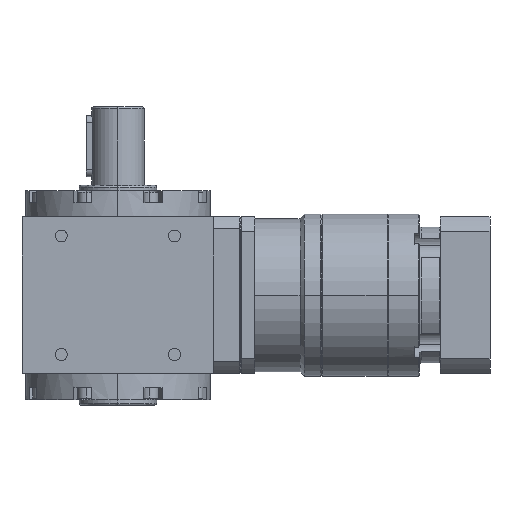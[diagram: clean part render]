
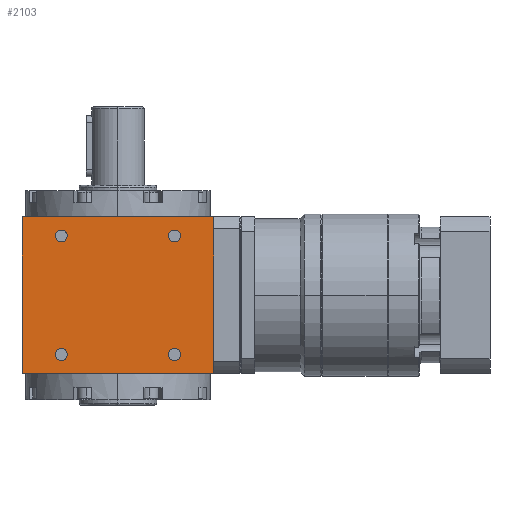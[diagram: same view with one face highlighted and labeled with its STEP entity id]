
A CAD part, left-side view. The second image highlights one B-rep face of the part: STEP entity #2103.
In plain terms, the highlighted planar face has unit normal (-1, 0, 0).
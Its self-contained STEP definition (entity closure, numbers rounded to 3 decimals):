
#221 = CARTESIAN_POINT ( 'NONE',  ( -55., -35.9, -34. ) ) ;
#629 = DIRECTION ( 'NONE',  ( 0., -1., 0. ) ) ;
#631 = DIRECTION ( 'NONE',  ( 0., 1., 0. ) ) ;
#890 = CARTESIAN_POINT ( 'NONE',  ( -55., -32.5, -34. ) ) ;
#1011 = AXIS2_PLACEMENT_3D ( 'NONE', #12453, #1200, #6738 ) ;
#1200 = DIRECTION ( 'NONE',  ( 1., 0., 0. ) ) ;
#1488 = VECTOR ( 'NONE', #12057, 1000. ) ;
#1581 = CARTESIAN_POINT ( 'NONE',  ( -55., -32.5, -34. ) ) ;
#1710 = CIRCLE ( 'NONE', #8312, 3.4 ) ;
#1756 = FACE_BOUND ( 'NONE', #2371, .T. ) ;
#1758 = ORIENTED_EDGE ( 'NONE', *, *, #4547, .T. ) ;
#2015 = VERTEX_POINT ( 'NONE', #221 ) ;
#2019 = LINE ( 'NONE', #9145, #2370 ) ;
#2103 = ADVANCED_FACE ( 'NONE', ( #8740, #2866, #1756, #3964, #3000 ), #8455, .T. ) ;
#2285 = ORIENTED_EDGE ( 'NONE', *, *, #12741, .T. ) ;
#2370 = VECTOR ( 'NONE', #6586, 1000. ) ;
#2371 = EDGE_LOOP ( 'NONE', ( #10068, #2285 ) ) ;
#2461 = DIRECTION ( 'NONE',  ( 0., -1., 0. ) ) ;
#2547 = DIRECTION ( 'NONE',  ( 1., 0., 0. ) ) ;
#2669 = DIRECTION ( 'NONE',  ( 0., -1., 0. ) ) ;
#2698 = CARTESIAN_POINT ( 'NONE',  ( -55., 32.5, -34. ) ) ;
#2836 = DIRECTION ( 'NONE',  ( 0., -1., 0. ) ) ;
#2866 = FACE_BOUND ( 'NONE', #14358, .T. ) ;
#3000 = FACE_BOUND ( 'NONE', #7902, .T. ) ;
#3071 = CARTESIAN_POINT ( 'NONE',  ( -55., 55., -45. ) ) ;
#3347 = CARTESIAN_POINT ( 'NONE',  ( -55., -29.1, 34. ) ) ;
#3551 = AXIS2_PLACEMENT_3D ( 'NONE', #13707, #9224, #11652 ) ;
#3574 = VERTEX_POINT ( 'NONE', #5697 ) ;
#3655 = CARTESIAN_POINT ( 'NONE',  ( -55., 32.5, 34. ) ) ;
#3779 = AXIS2_PLACEMENT_3D ( 'NONE', #3071, #6315, #10967 ) ;
#3781 = EDGE_CURVE ( 'NONE', #7746, #3791, #13210, .T. ) ;
#3791 = VERTEX_POINT ( 'NONE', #13856 ) ;
#3964 = FACE_BOUND ( 'NONE', #9973, .T. ) ;
#3973 = VERTEX_POINT ( 'NONE', #13248 ) ;
#4372 = CARTESIAN_POINT ( 'NONE',  ( -55., 55., -45. ) ) ;
#4489 = VERTEX_POINT ( 'NONE', #9481 ) ;
#4547 = EDGE_CURVE ( 'NONE', #3973, #6948, #8979, .T. ) ;
#4629 = EDGE_CURVE ( 'NONE', #12002, #5299, #6155, .T. ) ;
#4654 = ORIENTED_EDGE ( 'NONE', *, *, #5414, .T. ) ;
#4873 = CARTESIAN_POINT ( 'NONE',  ( -55., 29.1, -34. ) ) ;
#4880 = CARTESIAN_POINT ( 'NONE',  ( -55., -32.5, 34. ) ) ;
#5042 = DIRECTION ( 'NONE',  ( 1., 0., 0. ) ) ;
#5226 = ORIENTED_EDGE ( 'NONE', *, *, #7772, .T. ) ;
#5299 = VERTEX_POINT ( 'NONE', #6048 ) ;
#5414 = EDGE_CURVE ( 'NONE', #5994, #4489, #7359, .T. ) ;
#5697 = CARTESIAN_POINT ( 'NONE',  ( -55., 35.9, -34. ) ) ;
#5793 = VECTOR ( 'NONE', #7759, 1000. ) ;
#5994 = VERTEX_POINT ( 'NONE', #8058 ) ;
#6048 = CARTESIAN_POINT ( 'NONE',  ( -55., 55., 45. ) ) ;
#6155 = LINE ( 'NONE', #14248, #7579 ) ;
#6315 = DIRECTION ( 'NONE',  ( -1., 0., 0. ) ) ;
#6317 = EDGE_CURVE ( 'NONE', #11410, #2015, #12083, .T. ) ;
#6426 = DIRECTION ( 'NONE',  ( 1., 0., 0. ) ) ;
#6586 = DIRECTION ( 'NONE',  ( 0., 0., 1. ) ) ;
#6669 = AXIS2_PLACEMENT_3D ( 'NONE', #2698, #12913, #2836 ) ;
#6738 = DIRECTION ( 'NONE',  ( 0., -1., 0. ) ) ;
#6890 = AXIS2_PLACEMENT_3D ( 'NONE', #4880, #10333, #2461 ) ;
#6948 = VERTEX_POINT ( 'NONE', #10086 ) ;
#6964 = ORIENTED_EDGE ( 'NONE', *, *, #12656, .T. ) ;
#7237 = ORIENTED_EDGE ( 'NONE', *, *, #3781, .T. ) ;
#7359 = LINE ( 'NONE', #13024, #1488 ) ;
#7579 = VECTOR ( 'NONE', #631, 1000. ) ;
#7746 = VERTEX_POINT ( 'NONE', #3347 ) ;
#7759 = DIRECTION ( 'NONE',  ( 0., 0., -1. ) ) ;
#7772 = EDGE_CURVE ( 'NONE', #5299, #5994, #12461, .T. ) ;
#7883 = ORIENTED_EDGE ( 'NONE', *, *, #6317, .T. ) ;
#7902 = EDGE_LOOP ( 'NONE', ( #9799, #7237 ) ) ;
#8058 = CARTESIAN_POINT ( 'NONE',  ( -55., 55., -45. ) ) ;
#8193 = VERTEX_POINT ( 'NONE', #4873 ) ;
#8242 = EDGE_CURVE ( 'NONE', #3791, #7746, #9170, .T. ) ;
#8261 = CARTESIAN_POINT ( 'NONE',  ( -55., -32.5, 34. ) ) ;
#8312 = AXIS2_PLACEMENT_3D ( 'NONE', #1581, #5042, #629 ) ;
#8455 = PLANE ( 'NONE',  #3779 ) ;
#8457 = AXIS2_PLACEMENT_3D ( 'NONE', #8261, #13784, #2669 ) ;
#8740 = FACE_OUTER_BOUND ( 'NONE', #12156, .T. ) ;
#8808 = ORIENTED_EDGE ( 'NONE', *, *, #4629, .T. ) ;
#8979 = CIRCLE ( 'NONE', #13196, 3.4 ) ;
#9145 = CARTESIAN_POINT ( 'NONE',  ( -55., -55., -45. ) ) ;
#9170 = CIRCLE ( 'NONE', #8457, 3.4 ) ;
#9224 = DIRECTION ( 'NONE',  ( 1., 0., 0. ) ) ;
#9321 = EDGE_CURVE ( 'NONE', #4489, #12002, #2019, .T. ) ;
#9413 = EDGE_CURVE ( 'NONE', #8193, #3574, #14140, .T. ) ;
#9481 = CARTESIAN_POINT ( 'NONE',  ( -55., -55., -45. ) ) ;
#9498 = CIRCLE ( 'NONE', #6669, 3.4 ) ;
#9658 = CARTESIAN_POINT ( 'NONE',  ( -55., -55., 45. ) ) ;
#9799 = ORIENTED_EDGE ( 'NONE', *, *, #8242, .T. ) ;
#9973 = EDGE_LOOP ( 'NONE', ( #6964, #7883 ) ) ;
#10068 = ORIENTED_EDGE ( 'NONE', *, *, #9413, .T. ) ;
#10086 = CARTESIAN_POINT ( 'NONE',  ( -55., 29.1, 34. ) ) ;
#10208 = CIRCLE ( 'NONE', #1011, 3.4 ) ;
#10333 = DIRECTION ( 'NONE',  ( 1., 0., 0. ) ) ;
#10926 = DIRECTION ( 'NONE',  ( 0., -1., 0. ) ) ;
#10967 = DIRECTION ( 'NONE',  ( 0., 0., 1. ) ) ;
#10978 = ORIENTED_EDGE ( 'NONE', *, *, #12965, .T. ) ;
#11410 = VERTEX_POINT ( 'NONE', #11882 ) ;
#11652 = DIRECTION ( 'NONE',  ( 0., -1., 0. ) ) ;
#11831 = ORIENTED_EDGE ( 'NONE', *, *, #9321, .T. ) ;
#11882 = CARTESIAN_POINT ( 'NONE',  ( -55., -29.1, -34. ) ) ;
#12002 = VERTEX_POINT ( 'NONE', #9658 ) ;
#12057 = DIRECTION ( 'NONE',  ( 0., -1., 0. ) ) ;
#12083 = CIRCLE ( 'NONE', #13976, 3.4 ) ;
#12156 = EDGE_LOOP ( 'NONE', ( #5226, #4654, #11831, #8808 ) ) ;
#12453 = CARTESIAN_POINT ( 'NONE',  ( -55., 32.5, 34. ) ) ;
#12461 = LINE ( 'NONE', #4372, #5793 ) ;
#12656 = EDGE_CURVE ( 'NONE', #2015, #11410, #1710, .T. ) ;
#12741 = EDGE_CURVE ( 'NONE', #3574, #8193, #9498, .T. ) ;
#12913 = DIRECTION ( 'NONE',  ( 1., 0., 0. ) ) ;
#12965 = EDGE_CURVE ( 'NONE', #6948, #3973, #10208, .T. ) ;
#13024 = CARTESIAN_POINT ( 'NONE',  ( -55., 55., -45. ) ) ;
#13196 = AXIS2_PLACEMENT_3D ( 'NONE', #3655, #2547, #14032 ) ;
#13210 = CIRCLE ( 'NONE', #6890, 3.4 ) ;
#13248 = CARTESIAN_POINT ( 'NONE',  ( -55., 35.9, 34. ) ) ;
#13707 = CARTESIAN_POINT ( 'NONE',  ( -55., 32.5, -34. ) ) ;
#13784 = DIRECTION ( 'NONE',  ( 1., 0., 0. ) ) ;
#13856 = CARTESIAN_POINT ( 'NONE',  ( -55., -35.9, 34. ) ) ;
#13976 = AXIS2_PLACEMENT_3D ( 'NONE', #890, #6426, #10926 ) ;
#14032 = DIRECTION ( 'NONE',  ( 0., -1., 0. ) ) ;
#14140 = CIRCLE ( 'NONE', #3551, 3.4 ) ;
#14248 = CARTESIAN_POINT ( 'NONE',  ( -55., 55., 45. ) ) ;
#14358 = EDGE_LOOP ( 'NONE', ( #10978, #1758 ) ) ;
